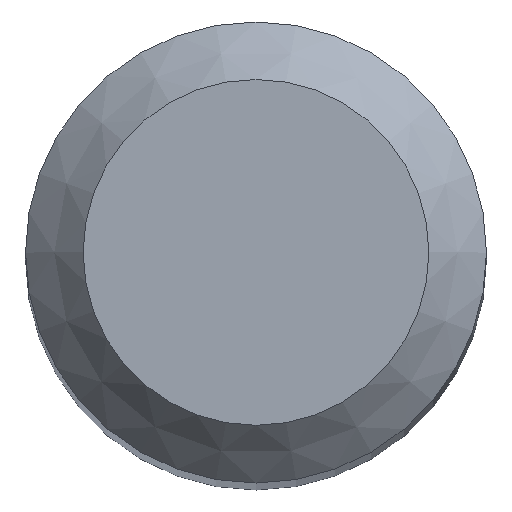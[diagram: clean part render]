
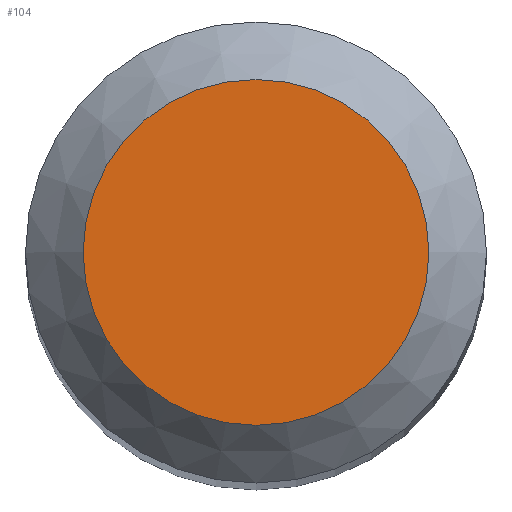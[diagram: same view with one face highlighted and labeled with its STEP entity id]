
A CAD part, top view. The second image highlights one B-rep face of the part: STEP entity #104.
In plain terms, the highlighted planar face has unit normal (0, 0, 1).
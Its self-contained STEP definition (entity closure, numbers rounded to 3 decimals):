
#88=CARTESIAN_POINT('',(1.5,0.0,53.0));
#89=DIRECTION('',(0.0,0.0,1.0));
#90=DIRECTION('',(1.0,0.0,0.0));
#91=AXIS2_PLACEMENT_3D('',#88,#89,#90);
#92=PLANE('',#91);
#93=CARTESIAN_POINT('',(-1.5,0.0,53.0));
#94=VERTEX_POINT('',#93);
#95=CARTESIAN_POINT('',(0.0,0.0,53.0));
#96=DIRECTION('',(0.0,0.0,-1.0));
#97=DIRECTION('',(-1.0,0.0,0.0));
#98=AXIS2_PLACEMENT_3D('',#95,#96,#97);
#99=CIRCLE('',#98,1.5);
#100=EDGE_CURVE('',#94,#94,#99,.T.);
#101=ORIENTED_EDGE('',*,*,#100,.F.);
#102=EDGE_LOOP('',(#101));
#103=FACE_OUTER_BOUND('',#102,.T.);
#104=ADVANCED_FACE('',(#103),#92,.T.);
